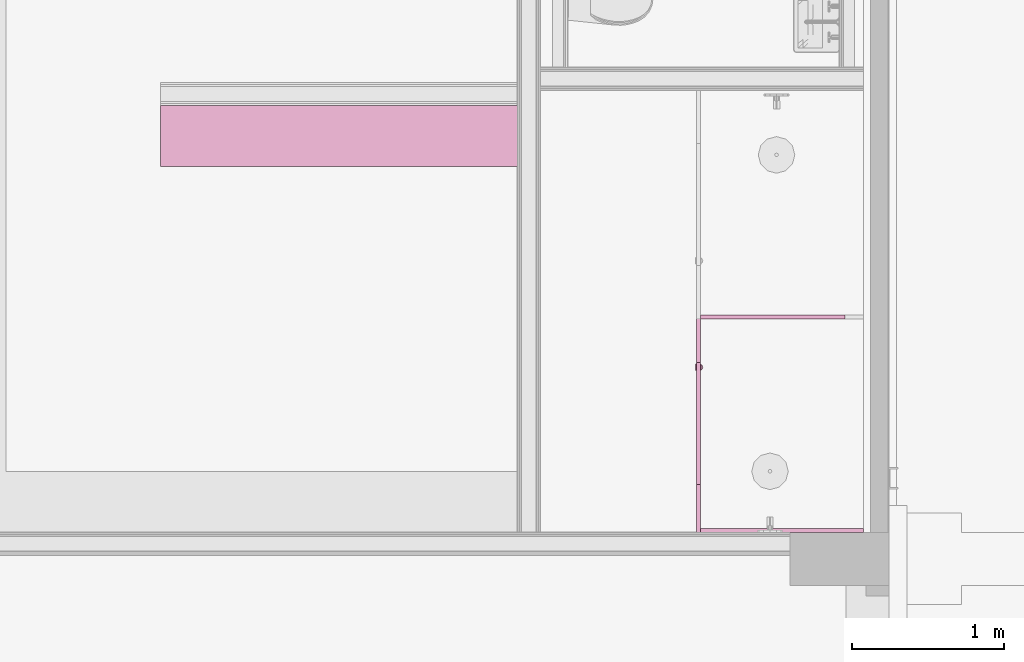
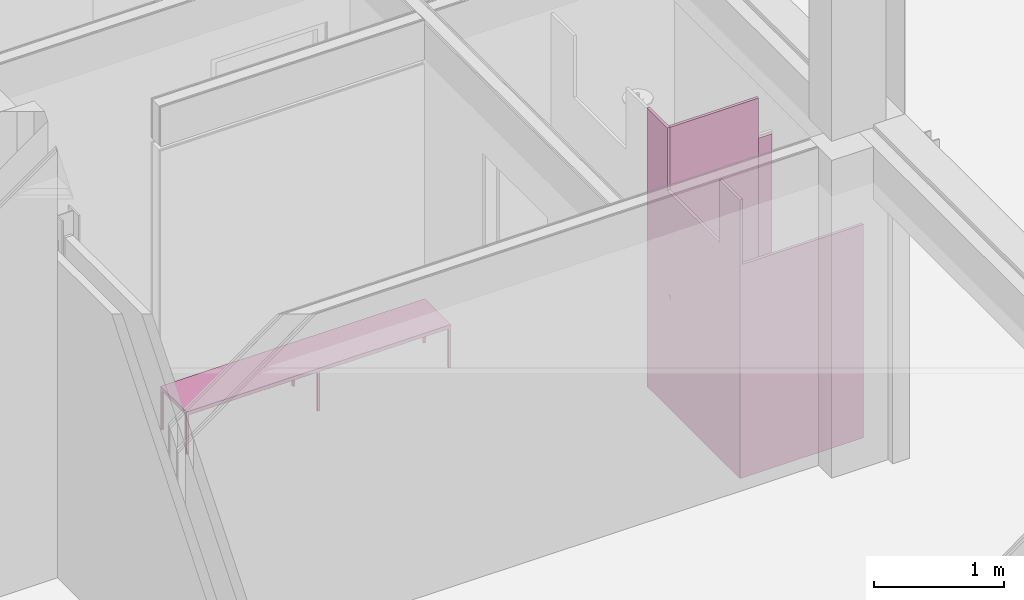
# One storey, part 103 of 109: 3 furnishings.
"""IFC2X3 building model written with IfcOpenShell, lengths in millimetres."""

from ifc_helpers import new_model, entity, si_unit, converted_unit, derived_unit, money_unit, direction, frame, origin_with_axes, place, context, subcontext, project, spatial, open_shell, faceted_brep, surface_model, type_object, element, save


model = new_model("IFC2X3")

# Units and contexts
model_context = context("Model", 3, precision=0.01, world=origin_with_axes(), true_north=direction((0.0, 1.0)))
body_context = subcontext(model_context, "Body", "Model", "MODEL_VIEW")
ifc_project = project(units=[si_unit("LENGTHUNIT", "METRE", prefix="MILLI"), si_unit("AREAUNIT", "SQUARE_METRE"), si_unit("VOLUMEUNIT", "CUBIC_METRE"), converted_unit("PLANEANGLEUNIT", "DEGREE", entity("IfcPlaneAngleMeasure", 0.0174532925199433), si_unit("PLANEANGLEUNIT", "RADIAN"), dimensions=[0, 0, 0, 0, 0, 0, 0]), money_unit("EUR"), converted_unit("TIMEUNIT", "Year", entity("IfcTimeMeasure", 31557600.0), si_unit("TIMEUNIT", "SECOND"), dimensions=[0, 0, 1, 0, 0, 0, 0]), si_unit("MASSUNIT", "GRAM", prefix="KILO"), si_unit("THERMODYNAMICTEMPERATUREUNIT", "DEGREE_CELSIUS"), si_unit("LUMINOUSINTENSITYUNIT", "LUMEN"), si_unit("ENERGYUNIT", "JOULE", prefix="MEGA"), derived_unit("THERMALCONDUCTANCEUNIT", [(si_unit("POWERUNIT", "WATT"), 1), (si_unit("LENGTHUNIT", "METRE"), -1), (si_unit("THERMODYNAMICTEMPERATUREUNIT", "KELVIN"), -1)]), derived_unit("SPECIFICHEATCAPACITYUNIT", [(si_unit("ENERGYUNIT", "JOULE"), 1), (si_unit("MASSUNIT", "GRAM", prefix="KILO"), -1), (si_unit("THERMODYNAMICTEMPERATUREUNIT", "KELVIN"), -1)]), derived_unit("MASSDENSITYUNIT", [(si_unit("MASSUNIT", "GRAM", prefix="KILO"), 1), (si_unit("VOLUMEUNIT", "CUBIC_METRE"), -1)])], contexts=[model_context])

# Site, building, storey
site_placement = place(None, origin_with_axes())
site = spatial("IfcSite", under=ifc_project, at=site_placement, Name="<site naam>", CompositionType="ELEMENT")
building_placement = place(site_placement, origin_with_axes())
building = spatial("IfcBuilding", under=site, at=building_placement, Name="<Naam gebouw>", CompositionType="ELEMENT")
storey_placement = place(building_placement, origin_with_axes())
storey = spatial("IfcBuildingStorey", under=building, at=storey_placement, Name="00 Begane grond", CompositionType="ELEMENT", Elevation=0.0)

# Furnishings
furnishing_element_type_1 = type_object("IfcFurnishingElementType", Name="Sanitaire wanden 27")
furnishing_1_placement = place(storey_placement, frame((57062.79866662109, 4175.000000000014, 0.0), z_axis=(0.0, 0.0, 1.0), x_axis=(0.0, -1.0, 0.0)))
element("IfcFurnishingElement", 1, at=furnishing_1_placement, inside=storey, type_object=furnishing_element_type_1, Name="72_Sanitaire wanden Kupan_Lege", context=body_context, shape_type="SurfaceModel", body=[
    faceted_brep([(0.0, 0.0, 0.0), (0.0, 0.0, 2600.0), (-312.5000000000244, 0.0, 2600.0), (-312.5000000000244, 0.0, 0.0), (0.0, 25.0, 0.0), (0.0, 25.0, 2600.0), (-312.5000000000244, 25.0, 2600.0), (-312.5000000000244, 25.0, 0.0)], [[[0, 1, 2, 3]], [[4, 5, 1, 0]], [[1, 5, 6, 2]], [[3, 2, 6, 7]], [[0, 3, 7, 4]], [[7, 6, 5, 4]]]),
    faceted_brep([(-1112.500000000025, 0.0, 0.0), (-1112.500000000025, 0.0, 2600.0), (-1425.000000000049, 0.0, 2600.0), (-1425.000000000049, 0.0, 0.0), (-1112.500000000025, 25.0, 0.0), (-1112.500000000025, 25.0, 2600.0), (-1425.000000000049, 25.0, 2600.0), (-1425.000000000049, 25.0, 0.0)], [[[0, 1, 2, 3]], [[4, 5, 1, 0]], [[1, 5, 6, 2]], [[3, 2, 6, 7]], [[0, 3, 7, 4]], [[7, 6, 5, 4]]]),
    faceted_brep([(0.0, 0.0, 2600.0), (0.0, 0.0, 2610.0), (-312.5000000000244, 0.0, 2610.0), (-312.5000000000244, 0.0, 2600.0), (0.0, 25.0, 2600.0), (0.0, 25.0, 2610.0), (-312.5000000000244, 25.0, 2610.0), (-312.5000000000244, 25.0, 2600.0)], [[[0, 1, 2, 3]], [[4, 5, 1, 0]], [[1, 5, 6, 2]], [[3, 2, 6, 7]], [[0, 3, 7, 4]], [[7, 6, 5, 4]]]),
    faceted_brep([(-1112.500000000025, 0.0, 2600.0), (-1112.500000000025, 0.0, 2610.0), (-1425.000000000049, 0.0, 2610.0), (-1425.000000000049, 0.0, 2600.0), (-1112.500000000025, 25.0, 2600.0), (-1112.500000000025, 25.0, 2610.0), (-1425.000000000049, 25.0, 2610.0), (-1425.000000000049, 25.0, 2600.0)], [[[0, 1, 2, 3]], [[4, 5, 1, 0]], [[1, 5, 6, 2]], [[3, 2, 6, 7]], [[0, 3, 7, 4]], [[7, 6, 5, 4]]]),
    faceted_brep([(-312.5000000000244, 0.0, 0.0), (-312.5000000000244, 0.0, 2025.0), (-1112.500000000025, 0.0, 2025.0), (-1112.500000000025, 0.0, 0.0), (-312.5000000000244, 25.0, 0.0), (-312.5000000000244, 25.0, 2025.0), (-1112.500000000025, 25.0, 2025.0), (-1112.500000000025, 25.0, 0.0)], [[[0, 1, 2, 3]], [[4, 5, 1, 0]], [[1, 5, 6, 2]], [[3, 2, 6, 7]], [[0, 3, 7, 4]], [[7, 6, 5, 4]]]),
    faceted_brep([(-1080.500000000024, 30.0, 1048.5), (-1080.500000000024, 31.0, 1048.5), (-1080.500000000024, 31.0, 1051.5), (-1080.500000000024, 30.0, 1051.5), (-1084.500000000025, 30.0, 1048.5), (-1084.500000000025, 31.0, 1048.5), (-1099.500000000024, 31.0, 1048.5), (-1097.166348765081, 34.44581109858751, 1048.5), (-1094.14617199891, 37.30903908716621, 1048.5), (-1090.58084288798, 39.4556574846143, 1048.5), (-1086.637252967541, 40.78518399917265, 1048.5), (-1082.500000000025, 41.23538406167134, 1048.5), (-1078.362747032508, 40.78518399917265, 1048.5), (-1074.419157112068, 39.4556574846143, 1048.5), (-1070.853828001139, 37.3090390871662, 1048.5), (-1067.833651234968, 34.4458110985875, 1048.5), (-1065.500000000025, 31.0, 1048.5), (-1065.500000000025, 31.0, 1051.5), (-1067.833651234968, 34.4458110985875, 1051.5), (-1070.853828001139, 37.3090390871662, 1051.5), (-1074.419157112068, 39.4556574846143, 1051.5), (-1078.362747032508, 40.78518399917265, 1051.5), (-1082.500000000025, 41.23538406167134, 1051.5), (-1086.637252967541, 40.78518399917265, 1051.5), (-1090.58084288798, 39.4556574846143, 1051.5), (-1094.14617199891, 37.30903908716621, 1051.5), (-1097.166348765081, 34.44581109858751, 1051.5), (-1099.500000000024, 31.0, 1051.5), (-1084.500000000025, 31.0, 1051.5), (-1084.500000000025, 30.0, 1051.5)], [[[0, 1, 2, 3]], [[0, 4, 5, 6, 7, 8, 9, 10, 11, 12, 13, 14, 15, 16, 1]], [[1, 16, 17, 2]], [[3, 2, 17, 18, 19, 20, 21, 22, 23, 24, 25, 26, 27, 28, 29]], [[4, 0, 3, 29]], [[5, 4, 29, 28]], [[6, 5, 28, 27]], [[7, 6, 27, 26]], [[8, 7, 26, 25]], [[9, 8, 25, 24]], [[10, 9, 24, 23]], [[11, 10, 23, 22]], [[12, 11, 22, 21]], [[13, 12, 21, 20]], [[14, 13, 20, 19]], [[15, 14, 19, 18]], [[16, 15, 18, 17]]]),
    surface_model("IfcShellBasedSurfaceModel", [(-1076.685657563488, 30.0, 1065.97477455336), (-1082.500000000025, 30.0, 1067.0), (-1082.500000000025, 28.0, 1073.0), (-1074.633536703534, 28.0, 1071.612930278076), (-1071.572610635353, 30.0, 1063.022755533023), (-1067.777568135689, 30.0, 1058.5), (-1065.758268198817, 30.0, 1052.952019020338), (-1065.758268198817, 30.0, 1047.047980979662), (-1067.777568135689, 30.0, 1041.5), (-1071.572610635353, 30.0, 1036.977244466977), (-1076.685657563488, 30.0, 1034.02522544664), (-1082.500000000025, 30.0, 1033.0), (-1088.314342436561, 30.0, 1034.02522544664), (-1093.427389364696, 30.0, 1036.977244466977), (-1097.22243186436, 30.0, 1041.5), (-1099.241731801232, 30.0, 1047.047980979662), (-1099.241731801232, 30.0, 1052.952019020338), (-1097.22243186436, 30.0, 1058.5), (-1093.427389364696, 30.0, 1063.022755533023), (-1088.314342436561, 30.0, 1065.97477455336), (-1090.366463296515, 28.0, 1071.612930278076), (-1082.500000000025, 25.0, 1073.0), (-1074.633536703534, 25.0, 1071.612930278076), (-1067.715884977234, 28.0, 1067.619022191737), (-1062.581415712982, 28.0, 1061.5), (-1059.849421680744, 28.0, 1053.993908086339), (-1059.849421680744, 28.0, 1046.006091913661), (-1062.581415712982, 28.0, 1038.5), (-1067.715884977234, 28.0, 1032.380977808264), (-1074.633536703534, 28.0, 1028.387069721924), (-1082.500000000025, 28.0, 1027.0), (-1090.366463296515, 28.0, 1028.387069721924), (-1097.284115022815, 28.0, 1032.380977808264), (-1102.418584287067, 28.0, 1038.5), (-1105.150578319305, 28.0, 1046.006091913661), (-1105.150578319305, 28.0, 1053.993908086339), (-1102.418584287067, 28.0, 1061.5), (-1097.284115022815, 28.0, 1067.619022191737), (-1090.366463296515, 25.0, 1071.612930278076), (-1067.715884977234, 25.0, 1067.619022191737), (-1062.581415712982, 25.0, 1061.5), (-1059.849421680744, 25.0, 1053.993908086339), (-1059.849421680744, 25.0, 1046.006091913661), (-1062.581415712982, 25.0, 1038.5), (-1067.715884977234, 25.0, 1032.380977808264), (-1074.633536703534, 25.0, 1028.387069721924), (-1082.500000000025, 25.0, 1027.0), (-1090.366463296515, 25.0, 1028.387069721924), (-1097.284115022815, 25.0, 1032.380977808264), (-1102.418584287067, 25.0, 1038.5), (-1105.150578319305, 25.0, 1046.006091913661), (-1105.150578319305, 25.0, 1053.993908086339), (-1102.418584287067, 25.0, 1061.5), (-1097.284115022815, 25.0, 1067.619022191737)], [open_shell([[[0, 1, 2, 3]], [[1, 0, 4, 5, 6, 7, 8, 9, 10, 11, 12, 13, 14, 15, 16, 17, 18, 19]], [[1, 19, 20, 2]], [[3, 2, 21, 22]], [[4, 0, 3, 23]], [[5, 4, 23, 24]], [[6, 5, 24, 25]], [[7, 6, 25, 26]], [[8, 7, 26, 27]], [[9, 8, 27, 28]], [[10, 9, 28, 29]], [[11, 10, 29, 30]], [[12, 11, 30, 31]], [[13, 12, 31, 32]], [[14, 13, 32, 33]], [[15, 14, 33, 34]], [[16, 15, 34, 35]], [[17, 16, 35, 36]], [[18, 17, 36, 37]], [[19, 18, 37, 20]], [[2, 20, 38, 21]], [[23, 3, 22, 39]], [[24, 23, 39, 40]], [[25, 24, 40, 41]], [[26, 25, 41, 42]], [[27, 26, 42, 43]], [[28, 27, 43, 44]], [[29, 28, 44, 45]], [[30, 29, 45, 46]], [[31, 30, 46, 47]], [[32, 31, 47, 48]], [[33, 32, 48, 49]], [[34, 33, 49, 50]], [[35, 34, 50, 51]], [[36, 35, 51, 52]], [[37, 36, 52, 53]], [[20, 37, 53, 38]]])]),
    faceted_brep([(-1059.500000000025, -1.200000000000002, 1050.0), (-1060.887069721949, -1.200000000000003, 1057.866463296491), (-1060.887069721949, -4.200000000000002, 1057.866463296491), (-1059.500000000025, -4.200000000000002, 1050.0), (-1060.887069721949, -1.200000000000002, 1042.13353670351), (-1064.880977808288, -1.200000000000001, 1035.215884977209), (-1071.000000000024, -1.2, 1030.081415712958), (-1078.506091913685, -1.199999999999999, 1027.349421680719), (-1086.493908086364, -1.199999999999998, 1027.349421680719), (-1094.000000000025, -1.199999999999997, 1030.081415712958), (-1100.119022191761, -1.199999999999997, 1035.21588497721), (-1104.1129302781, -1.199999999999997, 1042.13353670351), (-1105.500000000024, -1.199999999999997, 1050.0), (-1104.1129302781, -1.199999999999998, 1057.866463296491), (-1100.119022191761, -1.199999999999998, 1064.78411502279), (-1094.000000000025, -1.2, 1069.918584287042), (-1086.493908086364, -1.200000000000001, 1072.650578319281), (-1078.506091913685, -1.200000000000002, 1072.650578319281), (-1071.000000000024, -1.200000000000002, 1069.918584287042), (-1064.880977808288, -1.200000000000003, 1064.78411502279), (-1064.880977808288, -4.200000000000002, 1064.78411502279), (-1071.000000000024, -4.200000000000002, 1069.918584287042), (-1078.506091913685, -4.200000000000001, 1072.650578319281), (-1086.493908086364, -4.2, 1072.650578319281), (-1094.000000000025, -4.2, 1069.918584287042), (-1100.119022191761, -4.199999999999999, 1064.78411502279), (-1104.1129302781, -4.199999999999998, 1057.866463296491), (-1105.500000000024, -4.199999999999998, 1050.0), (-1104.1129302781, -4.199999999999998, 1042.13353670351), (-1100.119022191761, -4.199999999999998, 1035.21588497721), (-1094.000000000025, -4.199999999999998, 1030.081415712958), (-1086.493908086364, -4.199999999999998, 1027.349421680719), (-1078.506091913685, -4.199999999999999, 1027.349421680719), (-1071.000000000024, -4.2, 1030.081415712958), (-1064.880977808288, -4.2, 1035.215884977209), (-1060.887069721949, -4.200000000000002, 1042.13353670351)], [[[0, 1, 2, 3]], [[0, 4, 5, 6, 7, 8, 9, 10, 11, 12, 13, 14, 15, 16, 17, 18, 19, 1]], [[1, 19, 20, 2]], [[3, 2, 20, 21, 22, 23, 24, 25, 26, 27, 28, 29, 30, 31, 32, 33, 34, 35]], [[4, 0, 3, 35]], [[5, 4, 35, 34]], [[6, 5, 34, 33]], [[7, 6, 33, 32]], [[8, 7, 32, 31]], [[9, 8, 31, 30]], [[10, 9, 30, 29]], [[11, 10, 29, 28]], [[12, 11, 28, 27]], [[13, 12, 27, 26]], [[14, 13, 26, 25]], [[15, 14, 25, 24]], [[16, 15, 24, 23]], [[17, 16, 23, 22]], [[18, 17, 22, 21]], [[19, 18, 21, 20]]]),
    faceted_brep([(-1091.000000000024, -6.199999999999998, 1035.277568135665), (-1085.452019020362, -6.199999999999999, 1033.258268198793), (-1079.547980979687, -6.199999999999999, 1033.258268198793), (-1074.000000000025, -6.2, 1035.277568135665), (-1069.477244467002, -6.2, 1039.072610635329), (-1066.525225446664, -6.200000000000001, 1044.185657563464), (-1065.500000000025, -6.200000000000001, 1050.0), (-1066.525225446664, -6.200000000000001, 1055.814342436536), (-1069.477244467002, -6.200000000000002, 1060.927389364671), (-1074.000000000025, -6.200000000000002, 1064.722431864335), (-1079.547980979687, -6.200000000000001, 1066.741731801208), (-1085.452019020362, -6.200000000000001, 1066.741731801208), (-1091.000000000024, -6.2, 1064.722431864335), (-1095.522755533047, -6.2, 1060.927389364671), (-1098.474774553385, -6.199999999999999, 1055.814342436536), (-1099.500000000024, -6.199999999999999, 1050.0), (-1098.474774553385, -6.199999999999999, 1044.185657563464), (-1095.522755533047, -6.199999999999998, 1039.072610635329), (-1078.500000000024, -6.200000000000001, 1057.5), (-1086.500000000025, -6.200000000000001, 1057.5), (-1086.500000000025, -6.200000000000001, 1062.5), (-1078.500000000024, -6.200000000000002, 1062.5), (-1086.493908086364, -4.199999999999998, 1027.349421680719), (-1094.000000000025, -4.199999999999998, 1030.081415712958), (-1078.506091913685, -4.199999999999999, 1027.349421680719), (-1071.000000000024, -4.199999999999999, 1030.081415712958), (-1064.880977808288, -4.2, 1035.21588497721), (-1060.887069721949, -4.2, 1042.13353670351), (-1059.500000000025, -4.2, 1050.0), (-1060.887069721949, -4.200000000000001, 1057.866463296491), (-1064.880977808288, -4.200000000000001, 1064.78411502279), (-1071.000000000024, -4.200000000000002, 1069.918584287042), (-1078.506091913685, -4.200000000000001, 1072.650578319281), (-1086.493908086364, -4.2, 1072.650578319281), (-1094.000000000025, -4.2, 1069.918584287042), (-1100.119022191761, -4.2, 1064.784115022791), (-1104.1129302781, -4.199999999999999, 1057.866463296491), (-1105.500000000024, -4.199999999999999, 1050.0), (-1104.1129302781, -4.199999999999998, 1042.13353670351), (-1100.119022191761, -4.199999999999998, 1035.21588497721), (-1086.500000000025, -4.2, 1057.5), (-1078.500000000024, -4.2, 1057.5), (-1086.500000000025, -4.2, 1062.5), (-1078.500000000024, -4.200000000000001, 1062.5)], [[[0, 1, 2, 3, 4, 5, 6, 7, 8, 9, 10, 11, 12, 13, 14, 15, 16, 17], [18, 19, 20, 21]], [[22, 1, 0, 23]], [[24, 2, 1, 22]], [[25, 3, 2, 24]], [[26, 4, 3, 25]], [[27, 5, 4, 26]], [[28, 6, 5, 27]], [[29, 7, 6, 28]], [[30, 8, 7, 29]], [[31, 9, 8, 30]], [[32, 10, 9, 31]], [[33, 11, 10, 32]], [[34, 12, 11, 33]], [[35, 13, 12, 34]], [[36, 14, 13, 35]], [[37, 15, 14, 36]], [[38, 16, 15, 37]], [[39, 17, 16, 38]], [[23, 0, 17, 39]], [[40, 19, 18, 41]], [[42, 20, 19, 40]], [[43, 21, 20, 42]], [[41, 18, 21, 43]], [[34, 33, 32, 31, 30, 29, 28, 27, 26, 25, 24, 22, 23, 39, 38, 37, 36, 35], [41, 43, 42, 40]]]),
    surface_model("IfcShellBasedSurfaceModel", [(-1078.500000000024, -4.210000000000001, 1062.5), (-1078.500000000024, -4.210000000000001, 1057.5), (-1086.500000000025, -4.21, 1057.5), (-1086.500000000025, -4.21, 1062.5)], [open_shell([[[0, 1, 2, 3]]])]),
    faceted_brep([(-25.0, 25.0, 0.0), (-25.0, 25.0, 2000.0), (-25.00000000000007, 1094.984178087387, 2000.0), (-25.00000000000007, 1094.984178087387, 0.0), (0.0, 25.0, 0.0), (0.0, 25.0, 2000.0), (0.0, 1094.984178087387, 2000.0), (0.0, 1094.984178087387, 0.0)], [[[0, 1, 2, 3]], [[4, 5, 1, 0]], [[1, 5, 6, 2]], [[3, 2, 6, 7]], [[0, 3, 7, 4]], [[7, 6, 5, 4]]]),
    faceted_brep([(-1425.000000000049, 25.0, 0.0), (-1425.000000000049, 25.0, 2000.0), (-1425.000000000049, 1094.984178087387, 2000.0), (-1425.000000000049, 1094.984178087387, 0.0), (-1400.000000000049, 25.0, 0.0), (-1400.000000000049, 25.0, 2000.0), (-1400.000000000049, 1094.984178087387, 2000.0), (-1400.000000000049, 1094.984178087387, 0.0)], [[[0, 1, 2, 3]], [[4, 5, 1, 0]], [[1, 5, 6, 2]], [[3, 2, 6, 7]], [[0, 3, 7, 4]], [[7, 6, 5, 4]]]),
])
furniture_type = type_object("IfcFurnitureType", Name="Buitenbank 02 27", AssemblyPlace="NOTDEFINED")
furnishing_2_placement = place(storey_placement, frame((53547.81448728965, 6974.999999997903, 0.0), z_axis=(0.0, 0.0, 1.0), x_axis=(-1.0, 0.0, 0.0)))
element("IfcFurnishingElement", 2, at=furnishing_2_placement, inside=storey, type_object=furniture_type, Name="72_Brandslanghaspelkast_Lege", ObjectType="CHAIR", context=body_context, shape_type="Brep", body=[
    faceted_brep([(-20.0, 0.0, 0.0), (-20.0, 20.0, 0.0), (0.0, 20.0, 0.0), (0.0, 0.0, 0.0), (-20.0, 0.0, 385.0), (-20.0, 20.0, 385.0), (0.0, 20.0, 385.0), (0.0, 0.0, 385.0)], [[[0, 1, 2, 3]], [[0, 4, 5, 1]], [[1, 5, 6, 2]], [[2, 6, 7, 3]], [[3, 7, 4, 0]], [[7, 6, 5, 4]]]),
    faceted_brep([(-20.0, 380.0, 0.0), (-20.0, 400.0, 0.0), (0.0, 400.0, 0.0), (0.0, 380.0, 0.0), (-20.0, 380.0, 385.0), (-20.0, 400.0, 385.0), (0.0, 400.0, 385.0), (0.0, 380.0, 385.0)], [[[0, 1, 2, 3]], [[0, 4, 5, 1]], [[1, 5, 6, 2]], [[2, 6, 7, 3]], [[3, 7, 4, 0]], [[7, 6, 5, 4]]]),
    faceted_brep([(-2340.00000124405, 0.0, 0.0), (-2340.00000124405, 20.0, 0.0), (-2320.00000124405, 20.0, 0.0), (-2320.00000124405, 0.0, 0.0), (-2340.00000124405, 0.0, 385.0), (-2340.00000124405, 20.0, 385.0), (-2320.00000124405, 20.0, 385.0), (-2320.00000124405, 0.0, 385.0)], [[[0, 1, 2, 3]], [[0, 4, 5, 1]], [[1, 5, 6, 2]], [[2, 6, 7, 3]], [[3, 7, 4, 0]], [[7, 6, 5, 4]]]),
    faceted_brep([(-2340.00000124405, 380.0, 0.0), (-2340.00000124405, 400.0, 0.0), (-2320.00000124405, 400.0, 0.0), (-2320.00000124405, 380.0, 0.0), (-2340.00000124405, 380.0, 385.0), (-2340.00000124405, 400.0, 385.0), (-2320.00000124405, 400.0, 385.0), (-2320.00000124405, 380.0, 385.0)], [[[0, 1, 2, 3]], [[0, 4, 5, 1]], [[1, 5, 6, 2]], [[2, 6, 7, 3]], [[3, 7, 4, 0]], [[7, 6, 5, 4]]]),
    faceted_brep([(-1180.000000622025, 0.0, 0.0), (-1180.000000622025, 20.0, 0.0), (-1160.000000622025, 20.0, 0.0), (-1160.000000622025, 0.0, 0.0), (-1180.000000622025, 0.0, 385.0), (-1180.000000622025, 20.0, 385.0), (-1160.000000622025, 20.0, 385.0), (-1160.000000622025, 0.0, 385.0)], [[[0, 1, 2, 3]], [[0, 4, 5, 1]], [[1, 5, 6, 2]], [[2, 6, 7, 3]], [[3, 7, 4, 0]], [[7, 6, 5, 4]]]),
    faceted_brep([(-1180.000000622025, 380.0, 0.0), (-1180.000000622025, 400.0, 0.0), (-1160.000000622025, 400.0, 0.0), (-1160.000000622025, 380.0, 0.0), (-1180.000000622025, 380.0, 385.0), (-1180.000000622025, 400.0, 385.0), (-1160.000000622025, 400.0, 385.0), (-1160.000000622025, 380.0, 385.0)], [[[0, 1, 2, 3]], [[0, 4, 5, 1]], [[1, 5, 6, 2]], [[2, 6, 7, 3]], [[3, 7, 4, 0]], [[7, 6, 5, 4]]]),
    faceted_brep([(-1160.000000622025, 0.0, 365.0000000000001), (-1160.000000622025, 20.0, 365.0000000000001), (-20.0, 20.0, 365.0000000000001), (-20.0, 0.0, 365.0000000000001), (-1160.000000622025, 0.0, 385.0000000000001), (-1160.000000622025, 20.0, 385.0000000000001), (-20.0, 20.0, 385.0000000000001), (-20.0, 0.0, 385.0000000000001)], [[[0, 1, 2, 3]], [[0, 4, 5, 1]], [[1, 5, 6, 2]], [[2, 6, 7, 3]], [[3, 7, 4, 0]], [[7, 6, 5, 4]]]),
    faceted_brep([(-2320.00000124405, 0.0, 365.0000000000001), (-2320.00000124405, 20.0, 365.0000000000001), (-1180.000000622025, 20.0, 365.0000000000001), (-1180.000000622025, 0.0, 365.0000000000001), (-2320.00000124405, 0.0, 385.0000000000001), (-2320.00000124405, 20.0, 385.0000000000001), (-1180.000000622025, 20.0, 385.0000000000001), (-1180.000000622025, 0.0, 385.0000000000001)], [[[0, 1, 2, 3]], [[0, 4, 5, 1]], [[1, 5, 6, 2]], [[2, 6, 7, 3]], [[3, 7, 4, 0]], [[7, 6, 5, 4]]]),
    faceted_brep([(-1160.000000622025, 380.0, 365.0000000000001), (-1160.000000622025, 400.0, 365.0000000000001), (-20.0, 400.0, 365.0000000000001), (-20.0, 380.0, 365.0000000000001), (-1160.000000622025, 380.0, 385.0000000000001), (-1160.000000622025, 400.0, 385.0000000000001), (-20.0, 400.0, 385.0000000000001), (-20.0, 380.0, 385.0000000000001)], [[[0, 1, 2, 3]], [[0, 4, 5, 1]], [[1, 5, 6, 2]], [[2, 6, 7, 3]], [[3, 7, 4, 0]], [[7, 6, 5, 4]]]),
    faceted_brep([(-2320.00000124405, 380.0, 365.0000000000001), (-2320.00000124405, 400.0, 365.0000000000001), (-1180.000000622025, 400.0, 365.0000000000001), (-1180.000000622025, 380.0, 365.0000000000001), (-2320.00000124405, 380.0, 385.0000000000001), (-2320.00000124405, 400.0, 385.0000000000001), (-1180.000000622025, 400.0, 385.0000000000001), (-1180.000000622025, 380.0, 385.0000000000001)], [[[0, 1, 2, 3]], [[0, 4, 5, 1]], [[1, 5, 6, 2]], [[2, 6, 7, 3]], [[3, 7, 4, 0]], [[7, 6, 5, 4]]]),
    faceted_brep([(-20.0, 20.0, 365.0000000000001), (-20.0, 380.0000000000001, 365.0000000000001), (0.0, 380.0000000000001, 365.0000000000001), (0.0, 20.0, 365.0000000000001), (-20.0, 20.0, 385.0000000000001), (-20.0, 380.0000000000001, 385.0000000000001), (0.0, 380.0000000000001, 385.0000000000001), (0.0, 20.0, 385.0000000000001)], [[[0, 1, 2, 3]], [[0, 4, 5, 1]], [[1, 5, 6, 2]], [[2, 6, 7, 3]], [[3, 7, 4, 0]], [[7, 6, 5, 4]]]),
    faceted_brep([(-1180.000000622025, 20.0, 365.0000000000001), (-1180.000000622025, 380.0000000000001, 365.0000000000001), (-1160.000000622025, 380.0000000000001, 365.0000000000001), (-1160.000000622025, 20.0, 365.0000000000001), (-1180.000000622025, 20.0, 385.0000000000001), (-1180.000000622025, 380.0000000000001, 385.0000000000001), (-1160.000000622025, 380.0000000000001, 385.0000000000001), (-1160.000000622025, 20.0, 385.0000000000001)], [[[0, 1, 2, 3]], [[0, 4, 5, 1]], [[1, 5, 6, 2]], [[2, 6, 7, 3]], [[3, 7, 4, 0]], [[7, 6, 5, 4]]]),
    faceted_brep([(-2340.00000124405, 20.0, 365.0000000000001), (-2340.00000124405, 380.0000000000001, 365.0000000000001), (-2320.00000124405, 380.0000000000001, 365.0000000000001), (-2320.00000124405, 20.0, 365.0000000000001), (-2340.00000124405, 20.0, 385.0000000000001), (-2340.00000124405, 380.0000000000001, 385.0000000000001), (-2320.00000124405, 380.0000000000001, 385.0000000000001), (-2320.00000124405, 20.0, 385.0000000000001)], [[[0, 1, 2, 3]], [[0, 4, 5, 1]], [[1, 5, 6, 2]], [[2, 6, 7, 3]], [[3, 7, 4, 0]], [[7, 6, 5, 4]]]),
    faceted_brep([(0.0, 0.0, 385.0), (0.0, 0.0, 400.0), (-2340.00000124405, 0.0, 400.0), (-2340.00000124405, 0.0, 385.0), (0.0, 400.0, 385.0), (0.0, 400.0, 400.0), (-2340.00000124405, 400.0, 400.0), (-2340.00000124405, 400.0, 385.0)], [[[0, 1, 2, 3]], [[4, 5, 1, 0]], [[1, 5, 6, 2]], [[3, 2, 6, 7]], [[0, 3, 7, 4]], [[7, 6, 5, 4]]]),
])
furnishing_element_type_2 = type_object("IfcFurnishingElementType", Name="Scheidingwanden 27")
furnishing_3_placement = place(storey_placement, frame((57087.79868140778, 5600.000032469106, 0.0), z_axis=(0.0, 0.0, 1.0), x_axis=(-0.9999999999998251, 5.914670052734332e-07, 0.0)))
element("IfcFurnishingElement", 3, at=furnishing_3_placement, inside=storey, type_object=furnishing_element_type_2, Name="72_Sanitaire wanden Kupan_Lege", context=body_context, shape_type="Brep", body=[
    faceted_brep([(0.0, 0.0, 0.0), (0.0, 0.0, 2375.0), (-949.9841633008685, 0.0, 2375.0), (-949.9841633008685, 0.0, 0.0), (0.0, 25.00000000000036, 0.0), (0.0, 25.00000000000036, 2375.0), (-949.9841633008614, 24.99999999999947, 2375.0), (-949.9841633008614, 24.99999999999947, 0.0)], [[[0, 1, 2, 3]], [[4, 5, 1, 0]], [[1, 5, 6, 2]], [[3, 2, 6, 7]], [[0, 3, 7, 4]], [[7, 6, 5, 4]]]),
])

save(model, "model.ifc")
